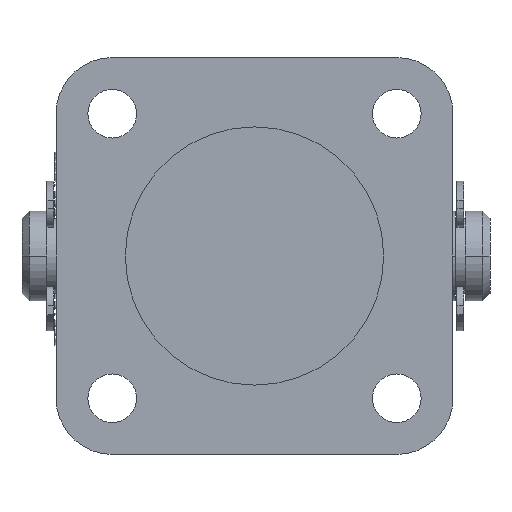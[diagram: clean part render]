
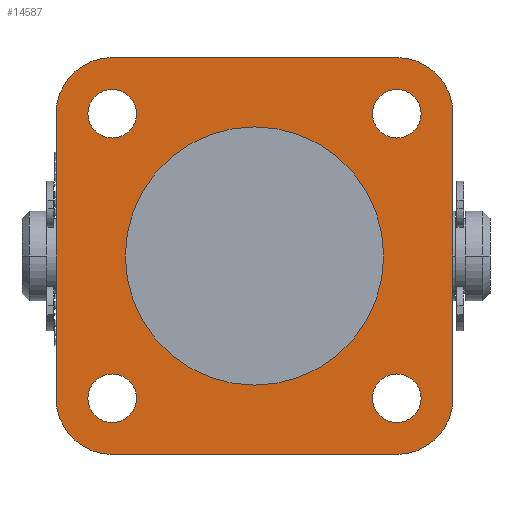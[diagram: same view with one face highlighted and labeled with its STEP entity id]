
A CAD part, left-side view. The second image highlights one B-rep face of the part: STEP entity #14587.
In plain terms, the highlighted planar face has unit normal (-1, 0, 0).
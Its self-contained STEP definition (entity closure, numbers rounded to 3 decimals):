
#14360=CARTESIAN_POINT('Vertex',(-9.,26.5,-19.)) ;
#14363=CARTESIAN_POINT('Line Origine',(-9.,26.5,0.)) ;
#14367=CARTESIAN_POINT('Vertex',(-9.,26.5,19.)) ;
#14435=CARTESIAN_POINT('Axis2P3D Location',(-9.,0.,0.)) ;
#14440=CARTESIAN_POINT('Line Origine',(-9.,0.,26.5)) ;
#14444=CARTESIAN_POINT('Vertex',(-9.,19.,26.5)) ;
#14446=CARTESIAN_POINT('Vertex',(-9.,-19.,26.5)) ;
#14449=CARTESIAN_POINT('Axis2P3D Location',(-9.,19.,19.)) ;
#14454=CARTESIAN_POINT('Axis2P3D Location',(-9.,19.,-19.)) ;
#14458=CARTESIAN_POINT('Vertex',(-9.,19.,-26.5)) ;
#14461=CARTESIAN_POINT('Line Origine',(-9.,0.,-26.5)) ;
#14465=CARTESIAN_POINT('Vertex',(-9.,-19.,-26.5)) ;
#14468=CARTESIAN_POINT('Axis2P3D Location',(-9.,-19.,-19.)) ;
#14472=CARTESIAN_POINT('Vertex',(-9.,-26.5,-19.)) ;
#14475=CARTESIAN_POINT('Line Origine',(-9.,-26.5,0.)) ;
#14479=CARTESIAN_POINT('Vertex',(-9.,-26.5,19.)) ;
#14482=CARTESIAN_POINT('Axis2P3D Location',(-9.,-19.,19.)) ;
#14497=CARTESIAN_POINT('Axis2P3D Location',(-9.,0.,0.)) ;
#14501=CARTESIAN_POINT('Vertex',(-9.,17.25,0.)) ;
#14503=CARTESIAN_POINT('Vertex',(-9.,-17.25,0.)) ;
#14506=CARTESIAN_POINT('Axis2P3D Location',(-9.,0.,0.)) ;
#14515=CARTESIAN_POINT('Axis2P3D Location',(-9.,-19.,19.)) ;
#14519=CARTESIAN_POINT('Vertex',(-9.,-15.75,19.)) ;
#14521=CARTESIAN_POINT('Vertex',(-9.,-22.25,19.)) ;
#14524=CARTESIAN_POINT('Axis2P3D Location',(-9.,-19.,19.)) ;
#14533=CARTESIAN_POINT('Axis2P3D Location',(-9.,-19.,-19.)) ;
#14537=CARTESIAN_POINT('Vertex',(-9.,-15.75,-19.)) ;
#14539=CARTESIAN_POINT('Vertex',(-9.,-22.25,-19.)) ;
#14542=CARTESIAN_POINT('Axis2P3D Location',(-9.,-19.,-19.)) ;
#14551=CARTESIAN_POINT('Axis2P3D Location',(-9.,19.,-19.)) ;
#14555=CARTESIAN_POINT('Vertex',(-9.,15.75,-19.)) ;
#14557=CARTESIAN_POINT('Vertex',(-9.,22.25,-19.)) ;
#14560=CARTESIAN_POINT('Axis2P3D Location',(-9.,19.,-19.)) ;
#14569=CARTESIAN_POINT('Axis2P3D Location',(-9.,19.,19.)) ;
#14573=CARTESIAN_POINT('Vertex',(-9.,15.75,19.)) ;
#14575=CARTESIAN_POINT('Vertex',(-9.,22.25,19.)) ;
#14578=CARTESIAN_POINT('Axis2P3D Location',(-9.,19.,19.)) ;
#14364=DIRECTION('Vector Direction',(0.,0.,1.)) ;
#14436=DIRECTION('Axis2P3D Direction',(1.,0.,0.)) ;
#14437=DIRECTION('Axis2P3D XDirection',(0.,1.,0.)) ;
#14441=DIRECTION('Vector Direction',(0.,1.,0.)) ;
#14450=DIRECTION('Axis2P3D Direction',(1.,0.,0.)) ;
#14455=DIRECTION('Axis2P3D Direction',(1.,0.,0.)) ;
#14462=DIRECTION('Vector Direction',(0.,-1.,0.)) ;
#14469=DIRECTION('Axis2P3D Direction',(1.,0.,0.)) ;
#14476=DIRECTION('Vector Direction',(0.,0.,-1.)) ;
#14483=DIRECTION('Axis2P3D Direction',(1.,0.,0.)) ;
#14498=DIRECTION('Axis2P3D Direction',(1.,0.,0.)) ;
#14507=DIRECTION('Axis2P3D Direction',(1.,0.,0.)) ;
#14516=DIRECTION('Axis2P3D Direction',(1.,0.,0.)) ;
#14525=DIRECTION('Axis2P3D Direction',(1.,0.,0.)) ;
#14534=DIRECTION('Axis2P3D Direction',(1.,0.,0.)) ;
#14543=DIRECTION('Axis2P3D Direction',(1.,0.,0.)) ;
#14552=DIRECTION('Axis2P3D Direction',(1.,0.,0.)) ;
#14561=DIRECTION('Axis2P3D Direction',(1.,0.,0.)) ;
#14570=DIRECTION('Axis2P3D Direction',(1.,0.,0.)) ;
#14579=DIRECTION('Axis2P3D Direction',(1.,0.,0.)) ;
#14438=AXIS2_PLACEMENT_3D('Plane Axis2P3D',#14435,#14436,#14437) ;
#14451=AXIS2_PLACEMENT_3D('Circle Axis2P3D',#14449,#14450,$) ;
#14456=AXIS2_PLACEMENT_3D('Circle Axis2P3D',#14454,#14455,$) ;
#14470=AXIS2_PLACEMENT_3D('Circle Axis2P3D',#14468,#14469,$) ;
#14484=AXIS2_PLACEMENT_3D('Circle Axis2P3D',#14482,#14483,$) ;
#14499=AXIS2_PLACEMENT_3D('Circle Axis2P3D',#14497,#14498,$) ;
#14508=AXIS2_PLACEMENT_3D('Circle Axis2P3D',#14506,#14507,$) ;
#14517=AXIS2_PLACEMENT_3D('Circle Axis2P3D',#14515,#14516,$) ;
#14526=AXIS2_PLACEMENT_3D('Circle Axis2P3D',#14524,#14525,$) ;
#14535=AXIS2_PLACEMENT_3D('Circle Axis2P3D',#14533,#14534,$) ;
#14544=AXIS2_PLACEMENT_3D('Circle Axis2P3D',#14542,#14543,$) ;
#14553=AXIS2_PLACEMENT_3D('Circle Axis2P3D',#14551,#14552,$) ;
#14562=AXIS2_PLACEMENT_3D('Circle Axis2P3D',#14560,#14561,$) ;
#14571=AXIS2_PLACEMENT_3D('Circle Axis2P3D',#14569,#14570,$) ;
#14580=AXIS2_PLACEMENT_3D('Circle Axis2P3D',#14578,#14579,$) ;
#14488=ORIENTED_EDGE('',*,*,#14448,.F.) ;
#14489=ORIENTED_EDGE('',*,*,#14453,.F.) ;
#14490=ORIENTED_EDGE('',*,*,#14369,.F.) ;
#14491=ORIENTED_EDGE('',*,*,#14460,.F.) ;
#14492=ORIENTED_EDGE('',*,*,#14467,.F.) ;
#14493=ORIENTED_EDGE('',*,*,#14474,.F.) ;
#14494=ORIENTED_EDGE('',*,*,#14481,.F.) ;
#14495=ORIENTED_EDGE('',*,*,#14486,.F.) ;
#14512=ORIENTED_EDGE('',*,*,#14505,.F.) ;
#14513=ORIENTED_EDGE('',*,*,#14510,.F.) ;
#14530=ORIENTED_EDGE('',*,*,#14523,.T.) ;
#14531=ORIENTED_EDGE('',*,*,#14528,.T.) ;
#14548=ORIENTED_EDGE('',*,*,#14541,.T.) ;
#14549=ORIENTED_EDGE('',*,*,#14546,.T.) ;
#14566=ORIENTED_EDGE('',*,*,#14559,.T.) ;
#14567=ORIENTED_EDGE('',*,*,#14564,.T.) ;
#14584=ORIENTED_EDGE('',*,*,#14577,.T.) ;
#14585=ORIENTED_EDGE('',*,*,#14582,.T.) ;
#14514=FACE_BOUND('',#14511,.T.) ;
#14532=FACE_BOUND('',#14529,.T.) ;
#14550=FACE_BOUND('',#14547,.T.) ;
#14568=FACE_BOUND('',#14565,.T.) ;
#14586=FACE_BOUND('',#14583,.T.) ;
#14365=VECTOR('Line Direction',#14364,1.) ;
#14442=VECTOR('Line Direction',#14441,1.) ;
#14463=VECTOR('Line Direction',#14462,1.) ;
#14477=VECTOR('Line Direction',#14476,1.) ;
#14587=ADVANCED_FACE('PartBody',(#14496,#14514,#14532,#14550,#14568,#14586),#14439,.F.) ;
#14452=CIRCLE('generated circle',#14451,7.5) ;
#14457=CIRCLE('generated circle',#14456,7.5) ;
#14471=CIRCLE('generated circle',#14470,7.5) ;
#14485=CIRCLE('generated circle',#14484,7.5) ;
#14500=CIRCLE('generated circle',#14499,17.25) ;
#14509=CIRCLE('generated circle',#14508,17.25) ;
#14518=CIRCLE('generated circle',#14517,3.25) ;
#14527=CIRCLE('generated circle',#14526,3.25) ;
#14536=CIRCLE('generated circle',#14535,3.25) ;
#14545=CIRCLE('generated circle',#14544,3.25) ;
#14554=CIRCLE('generated circle',#14553,3.25) ;
#14563=CIRCLE('generated circle',#14562,3.25) ;
#14572=CIRCLE('generated circle',#14571,3.25) ;
#14581=CIRCLE('generated circle',#14580,3.25) ;
#14369=EDGE_CURVE('',#14361,#14368,#14366,.T.) ;
#14448=EDGE_CURVE('',#14445,#14447,#14443,.F.) ;
#14453=EDGE_CURVE('',#14368,#14445,#14452,.T.) ;
#14460=EDGE_CURVE('',#14459,#14361,#14457,.T.) ;
#14467=EDGE_CURVE('',#14466,#14459,#14464,.F.) ;
#14474=EDGE_CURVE('',#14473,#14466,#14471,.T.) ;
#14481=EDGE_CURVE('',#14480,#14473,#14478,.T.) ;
#14486=EDGE_CURVE('',#14447,#14480,#14485,.T.) ;
#14505=EDGE_CURVE('',#14502,#14504,#14500,.F.) ;
#14510=EDGE_CURVE('',#14504,#14502,#14509,.F.) ;
#14523=EDGE_CURVE('',#14520,#14522,#14518,.T.) ;
#14528=EDGE_CURVE('',#14522,#14520,#14527,.T.) ;
#14541=EDGE_CURVE('',#14538,#14540,#14536,.T.) ;
#14546=EDGE_CURVE('',#14540,#14538,#14545,.T.) ;
#14559=EDGE_CURVE('',#14556,#14558,#14554,.T.) ;
#14564=EDGE_CURVE('',#14558,#14556,#14563,.T.) ;
#14577=EDGE_CURVE('',#14574,#14576,#14572,.T.) ;
#14582=EDGE_CURVE('',#14576,#14574,#14581,.T.) ;
#14487=EDGE_LOOP('',(#14488,#14489,#14490,#14491,#14492,#14493,#14494,#14495)) ;
#14511=EDGE_LOOP('',(#14512,#14513)) ;
#14529=EDGE_LOOP('',(#14530,#14531)) ;
#14547=EDGE_LOOP('',(#14548,#14549)) ;
#14565=EDGE_LOOP('',(#14566,#14567)) ;
#14583=EDGE_LOOP('',(#14584,#14585)) ;
#14496=FACE_OUTER_BOUND('',#14487,.T.) ;
#14366=LINE('Line',#14363,#14365) ;
#14443=LINE('Line',#14440,#14442) ;
#14464=LINE('Line',#14461,#14463) ;
#14478=LINE('Line',#14475,#14477) ;
#14439=PLANE('',#14438) ;
#14361=VERTEX_POINT('',#14360) ;
#14368=VERTEX_POINT('',#14367) ;
#14445=VERTEX_POINT('',#14444) ;
#14447=VERTEX_POINT('',#14446) ;
#14459=VERTEX_POINT('',#14458) ;
#14466=VERTEX_POINT('',#14465) ;
#14473=VERTEX_POINT('',#14472) ;
#14480=VERTEX_POINT('',#14479) ;
#14502=VERTEX_POINT('',#14501) ;
#14504=VERTEX_POINT('',#14503) ;
#14520=VERTEX_POINT('',#14519) ;
#14522=VERTEX_POINT('',#14521) ;
#14538=VERTEX_POINT('',#14537) ;
#14540=VERTEX_POINT('',#14539) ;
#14556=VERTEX_POINT('',#14555) ;
#14558=VERTEX_POINT('',#14557) ;
#14574=VERTEX_POINT('',#14573) ;
#14576=VERTEX_POINT('',#14575) ;
